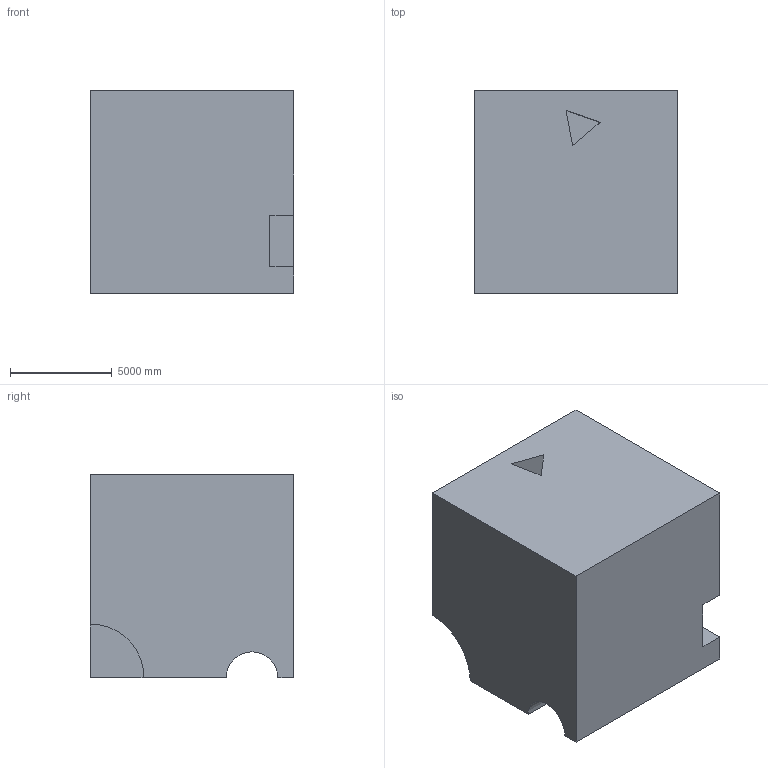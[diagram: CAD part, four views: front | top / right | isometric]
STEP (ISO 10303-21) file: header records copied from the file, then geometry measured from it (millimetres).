
FILE_DESCRIPTION (( 'STEP AP203' ), '1' );
FILE_NAME ('1445.STEP', '2022-08-18T14:31:08', ( 'user' ), ( '' ), 'SwSTEP 2.0', 'SolidWorks 2021', '' );
FILE_SCHEMA (( 'CONFIG_CONTROL_DESIGN' ));
Length unit declared in the file: centimetre
Products named in the file (1): 1445
Bounding box: 10000 x 10000 x 10000 mm (x, y, z)
Volume: 898597669842.8 mm3; surface area: 688591081.2 mm2
Topology: 1 solids, 1 shells, 29 faces, 78 edges, 52 vertices
Faces by surface type: plane 20, cylinder 9
Entity records: 987 total; most frequent: CARTESIAN_POINT 196, ORIENTED_EDGE 156, DIRECTION 140, EDGE_CURVE 78, VECTOR 52, LINE 52, VERTEX_POINT 52, AXIS2_PLACEMENT_3D 44
